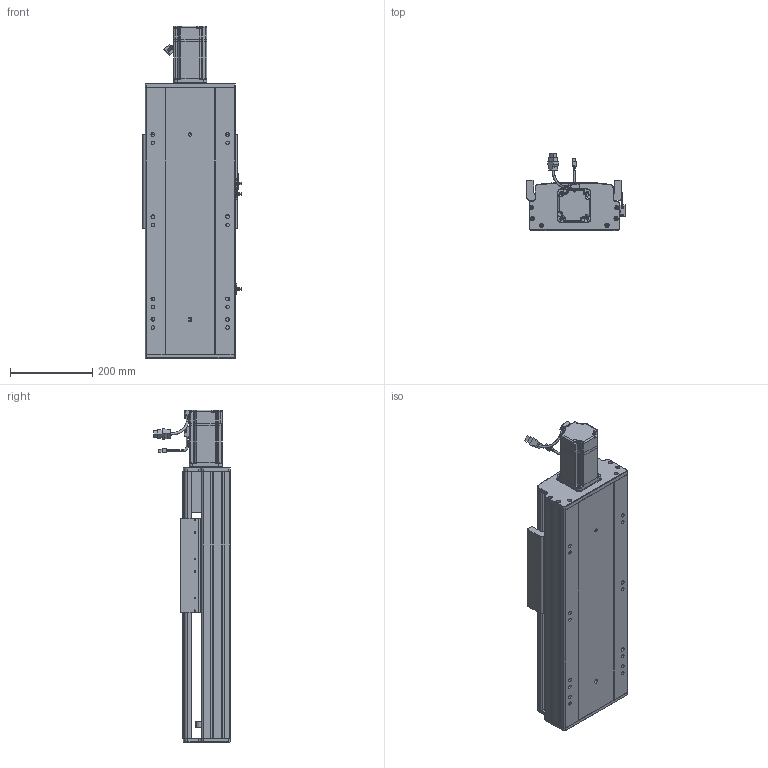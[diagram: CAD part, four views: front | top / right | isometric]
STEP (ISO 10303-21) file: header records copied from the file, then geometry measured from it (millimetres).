
FILE_DESCRIPTION (( 'STEP AP203' ), '1' );
FILE_NAME ('RY220-L2525-300-MK.SLDASM_250.step', '2022-07-04T02:57:14', ( '' ), ( '' ), 'SwSTEP 2.0', 'SolidWorks 2016', '' );
FILE_SCHEMA (( 'CONFIG_CONTROL_DESIGN' ));
Length unit declared in the file: millimetre
Products named in the file (12): 怢湛750W_ECMA-CX0807ES; RY220-L2525-300-MK.SLDASM_250; 覜茼ん672; RY220电机支撑座FK20（PCD90M6）; RY220-300-奻裔啣-MK_250; RY220菁釱MK-300_250; RY220-俋离672覜茼んえ; RY220綴裔啣; 滅袉蝶18-15; RY220ヶ裔啣; RY220半封闭25-32螺母铝滑块; 滅袉蝶18-12
Assembly tree (15 placements, depth 2):
  RY220-L2525-300-MK.SLDASM_250
    RY220菁釱MK-300_250
    RY220电机支撑座FK20（PCD90M6）
    怢湛750W_ECMA-CX0807ES
    滅袉蝶18-12  x2
    RY220ヶ裔啣
    RY220綴裔啣
    覜茼ん672  x3
    RY220半封闭25-32螺母铝滑块
    RY220-300-奻裔啣-MK_250
    RY220-俋离672覜茼んえ
    滅袉蝶18-15  x2
Bounding box: 238.7 x 187.27 x 808.3 mm (x, y, z)
Volume: 7515478.3 mm3; surface area: 1850630.6 mm2
Topology: 16 solids, 16 shells, 2068 faces, 5730 edges, 3646 vertices
Faces by surface type: plane 907, cylinder 902, cone 197, bspline 36, sphere 16, torus 10
Entity records: 67970 total; most frequent: CARTESIAN_POINT 19501, ORIENTED_EDGE 10104, DIRECTION 9423, EDGE_CURVE 5052, VERTEX_POINT 3302, AXIS2_PLACEMENT_3D 3273, VECTOR 2877, LINE 2877
